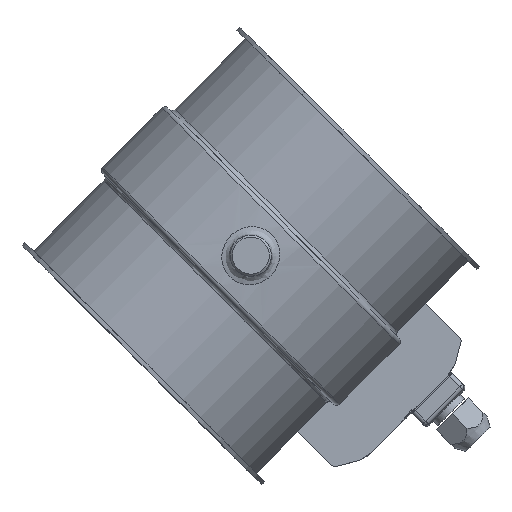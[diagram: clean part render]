
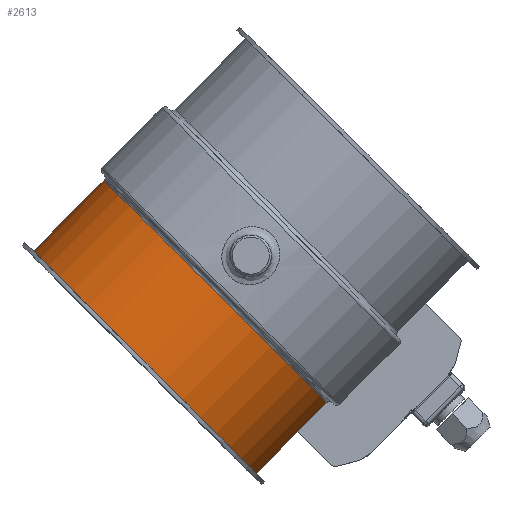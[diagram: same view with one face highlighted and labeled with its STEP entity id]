
A CAD part, top view. The second image highlights one B-rep face of the part: STEP entity #2613.
In plain terms, the highlighted cylindrical face has radius 76.5 mm (diameter 153 mm), a full revolution.
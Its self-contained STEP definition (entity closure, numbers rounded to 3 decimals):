
#2326=CARTESIAN_POINT('',(0.,2.041,0.));
#2327=VERTEX_POINT('',#2326);
#2328=CARTESIAN_POINT('',(-76.5,2.041,0.0));
#2329=DIRECTION('',(0.0,1.0,0.0));
#2330=DIRECTION('',(1.0,0.0,0.0));
#2331=AXIS2_PLACEMENT_3D('',#2328,#2329,#2330);
#2332=CIRCLE('',#2331,76.5);
#2333=EDGE_CURVE('',#2327,#2327,#2332,.T.);
#2587=CARTESIAN_POINT('',(0.,50.541,0.0));
#2588=VERTEX_POINT('',#2587);
#2589=CARTESIAN_POINT('',(-76.5,50.541,0.0));
#2590=DIRECTION('',(0.0,-1.0,0.0));
#2591=DIRECTION('',(1.0,0.0,0.0));
#2592=AXIS2_PLACEMENT_3D('',#2589,#2590,#2591);
#2593=CIRCLE('',#2592,76.5);
#2594=EDGE_CURVE('',#2588,#2588,#2593,.T.);
#2602=CARTESIAN_POINT('',(-76.5,25.291,0.0));
#2603=DIRECTION('',(0.,-1.0,0.0));
#2604=DIRECTION('',(1.0,0.0,0.0));
#2605=AXIS2_PLACEMENT_3D('',#2602,#2603,#2604);
#2606=CYLINDRICAL_SURFACE('',#2605,76.5);
#2607=ORIENTED_EDGE('',*,*,#2333,.T.);
#2608=EDGE_LOOP('',(#2607));
#2609=FACE_OUTER_BOUND('',#2608,.T.);
#2610=ORIENTED_EDGE('',*,*,#2594,.T.);
#2611=EDGE_LOOP('',(#2610));
#2612=FACE_BOUND('',#2611,.T.);
#2613=ADVANCED_FACE('',(#2609,#2612),#2606,.T.);
